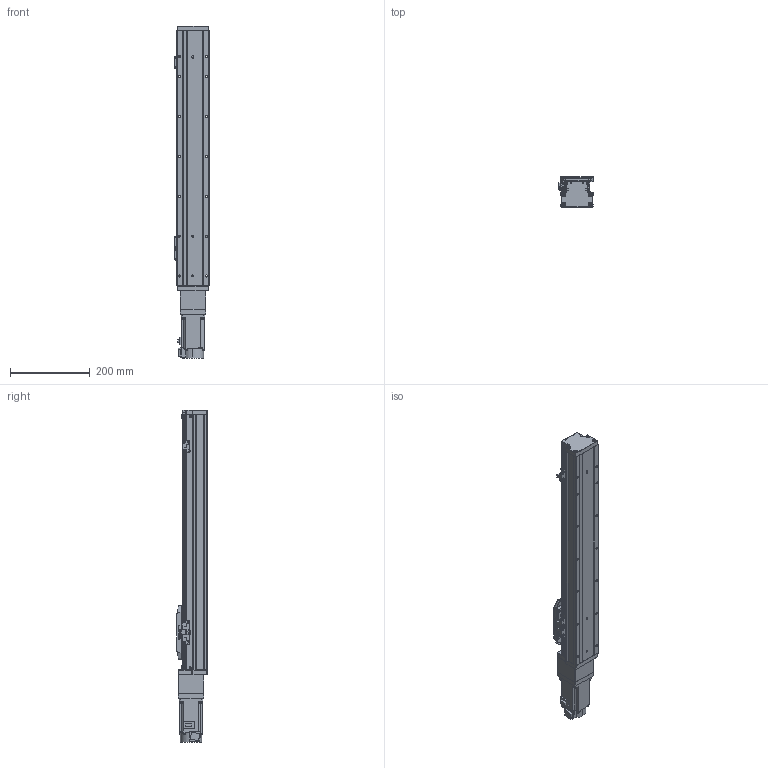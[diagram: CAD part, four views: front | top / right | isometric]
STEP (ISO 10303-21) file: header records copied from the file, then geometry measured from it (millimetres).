
FILE_DESCRIPTION (( 'STEP AP203' ), '1' );
FILE_NAME ('GTH8-450-BC-M20-C4.step', '2022-09-23T00:54:56', ( '微软用户' ), ( '微软中国' ), 'SwSTEP 2.0', 'SolidWorks 2020', '' );
FILE_SCHEMA (( 'CONFIG_CONTROL_DESIGN' ));
Length unit declared in the file: millimetre
Products named in the file (19): GTH80-022; BTH-M3X5X6; GTH80-001_450; GBT 70.1-M3℅6; CTHA86-006-1_CTHA86-006-2; GTH80-003; GBT 70.1-M4×16; CTHA86-013; GTH80-004; GTH80-028; CTHA86-027; GTH80-006; GTH50-024; hg-kn43j_-s100_; GTH80-013; GTH50-023; GTH8-450-BC-M20-C4; GBT 70.3-M3℅6; GBT96.1-2002 3×0.8
Assembly tree (60 placements, depth 2):
  GTH8-450-BC-M20-C4
    GTH80-001_450
    GTH80-003
    GTH80-004
    GTH80-006
    GTH80-013
    GBT 70.3-M3℅6  x6
    GTH80-022
    GBT 70.1-M3℅6  x14
    GBT 70.1-M4×16  x8
    GTH80-028  x2
    GTH50-024  x3
    GTH50-023  x3
    GBT96.1-2002 3×0.8  x6
    BTH-M3X5X6  x8
    CTHA86-006-1_CTHA86-006-2
    CTHA86-013
    CTHA86-027
    hg-kn43j_-s100_
Bounding box: 86.9 x 78 x 832.7 mm (x, y, z)
Volume: 3580632.1 mm3; surface area: 398041.5 mm2
Topology: 62 solids, 62 shells, 2227 faces, 5116 edges, 3115 vertices
Faces by surface type: plane 1173, cylinder 597, cone 285, torus 162, sphere 8, bspline 2
Entity records: 38668 total; most frequent: CARTESIAN_POINT 6383, DIRECTION 6338, ORIENTED_EDGE 5822, EDGE_CURVE 2911, AXIS2_PLACEMENT_3D 2212, LINE 1914, VECTOR 1914, VERTEX_POINT 1828
